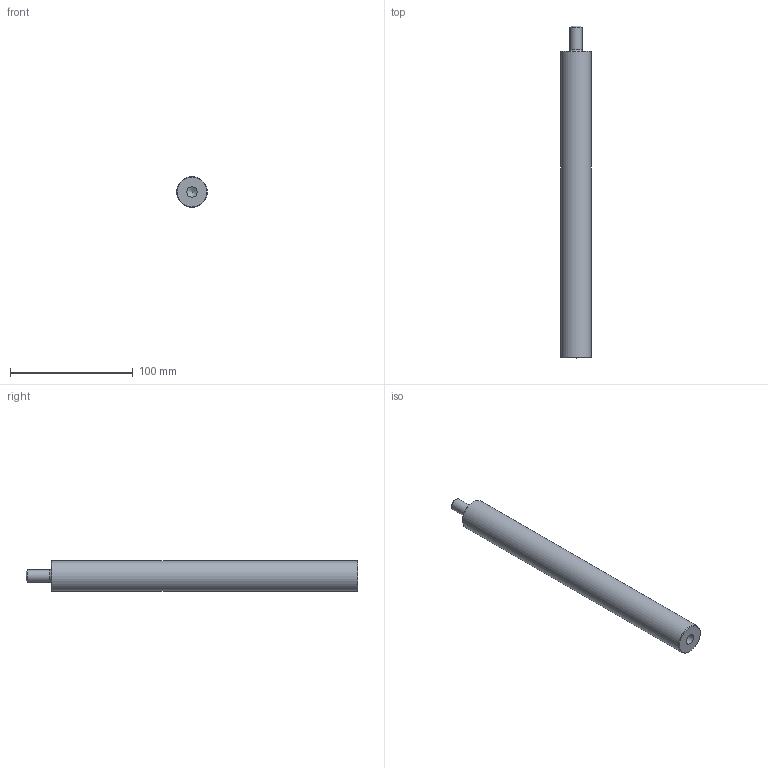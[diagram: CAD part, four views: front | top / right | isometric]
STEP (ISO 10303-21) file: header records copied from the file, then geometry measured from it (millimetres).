
FILE_DESCRIPTION(/* description */ (''),/* implementation_level */ '2;1');
FILE_NAME(/* name */ 'BM12-25D-250L.step',/* time_stamp */ '2023-10-24T14:07:43+09:00',/* author */ (''),/* organization */ (''),/* preprocessor_version */ 'ST-DEVELOPER v20',/* originating_system */ 'Autodesk Translation Framework v12.14.0.127',/* authorisation */ '');
FILE_SCHEMA (('AUTOMOTIVE_DESIGN { 1 0 10303 214 3 1 1 }'));
Length unit declared in the file: millimetre
Products named in the file (1): BM12-25D-250L
Bounding box: 25 x 270.5 x 25 mm (x, y, z)
Volume: 123348.6 mm3; surface area: 21583.4 mm2
Topology: 1 solids, 1 shells, 11 faces, 20 edges, 12 vertices
Faces by surface type: cone 4, cylinder 3, plane 3, torus 1
Full cylindrical faces by diameter (mm): 8.526 x1, 9.85 x1, 25 x1
Entity records: 309 total; most frequent: DIRECTION 55, CARTESIAN_POINT 43, ORIENTED_EDGE 38, AXIS2_PLACEMENT_3D 24, EDGE_CURVE 19, EDGE_LOOP 13, CIRCLE 12, VERTEX_POINT 12
